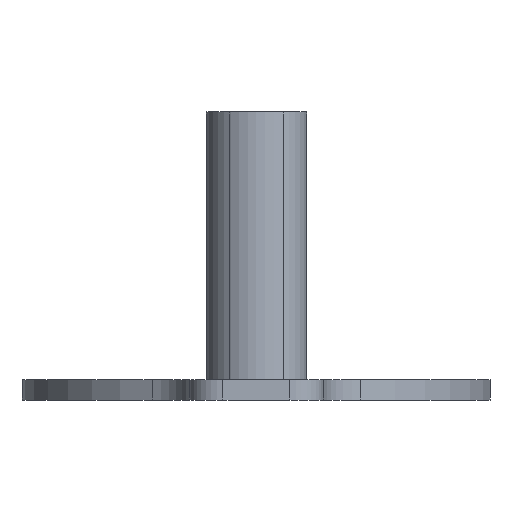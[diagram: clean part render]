
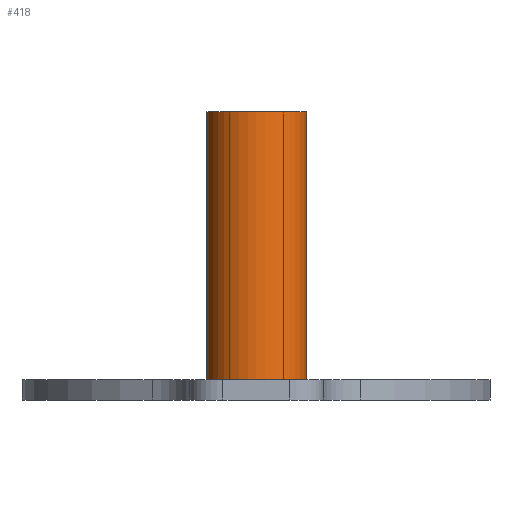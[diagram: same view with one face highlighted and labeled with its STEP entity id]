
A CAD part, front view. The second image highlights one B-rep face of the part: STEP entity #418.
In plain terms, the highlighted cylindrical face has radius 0.75 mm (diameter 1.5 mm), a partial arc.
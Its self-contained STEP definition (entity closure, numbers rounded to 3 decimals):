
#9 = CIRCLE ( 'NONE', #806, 0.75 ) ;
#21 = DIRECTION ( 'NONE',  ( 0., 0., -1. ) ) ;
#51 = VECTOR ( 'NONE', #546, 1000. ) ;
#112 = VERTEX_POINT ( 'NONE', #688 ) ;
#119 = CARTESIAN_POINT ( 'NONE',  ( -0.75, 0., 4.3 ) ) ;
#184 = AXIS2_PLACEMENT_3D ( 'NONE', #293, #21, #422 ) ;
#192 = EDGE_LOOP ( 'NONE', ( #236, #552, #666, #585 ) ) ;
#203 = DIRECTION ( 'NONE',  ( 0., 0., 1. ) ) ;
#206 = EDGE_CURVE ( 'NONE', #824, #318, #416, .T. ) ;
#222 = CARTESIAN_POINT ( 'NONE',  ( 0.75, 0., 0.3 ) ) ;
#233 = CARTESIAN_POINT ( 'NONE',  ( -0.75, 0., 0.3 ) ) ;
#236 = ORIENTED_EDGE ( 'NONE', *, *, #525, .F. ) ;
#248 = CYLINDRICAL_SURFACE ( 'NONE', #184, 0.75 ) ;
#265 = EDGE_CURVE ( 'NONE', #318, #348, #708, .T. ) ;
#279 = AXIS2_PLACEMENT_3D ( 'NONE', #573, #443, #634 ) ;
#293 = CARTESIAN_POINT ( 'NONE',  ( 0., 0., 4.3 ) ) ;
#309 = DIRECTION ( 'NONE',  ( 1., 0., 0. ) ) ;
#318 = VERTEX_POINT ( 'NONE', #233 ) ;
#348 = VERTEX_POINT ( 'NONE', #222 ) ;
#361 = FACE_OUTER_BOUND ( 'NONE', #192, .T. ) ;
#371 = CARTESIAN_POINT ( 'NONE',  ( -0.75, 0., 4.3 ) ) ;
#414 = CARTESIAN_POINT ( 'NONE',  ( 0.75, 0., 4.3 ) ) ;
#416 = LINE ( 'NONE', #371, #565 ) ;
#418 = ADVANCED_FACE ( 'NONE', ( #361 ), #248, .T. ) ;
#422 = DIRECTION ( 'NONE',  ( -1., 0., 0. ) ) ;
#443 = DIRECTION ( 'NONE',  ( 0., 0., 1. ) ) ;
#522 = CARTESIAN_POINT ( 'NONE',  ( 0., 0., 4.3 ) ) ;
#525 = EDGE_CURVE ( 'NONE', #112, #348, #619, .T. ) ;
#546 = DIRECTION ( 'NONE',  ( 0., 0., -1. ) ) ;
#552 = ORIENTED_EDGE ( 'NONE', *, *, #836, .F. ) ;
#565 = VECTOR ( 'NONE', #616, 1000. ) ;
#573 = CARTESIAN_POINT ( 'NONE',  ( 0., 0., 0.3 ) ) ;
#585 = ORIENTED_EDGE ( 'NONE', *, *, #265, .T. ) ;
#616 = DIRECTION ( 'NONE',  ( 0., 0., -1. ) ) ;
#619 = LINE ( 'NONE', #414, #51 ) ;
#634 = DIRECTION ( 'NONE',  ( 1., 0., 0. ) ) ;
#666 = ORIENTED_EDGE ( 'NONE', *, *, #206, .T. ) ;
#688 = CARTESIAN_POINT ( 'NONE',  ( 0.75, 0., 4.3 ) ) ;
#708 = CIRCLE ( 'NONE', #279, 0.75 ) ;
#806 = AXIS2_PLACEMENT_3D ( 'NONE', #522, #203, #309 ) ;
#824 = VERTEX_POINT ( 'NONE', #119 ) ;
#836 = EDGE_CURVE ( 'NONE', #824, #112, #9, .T. ) ;
